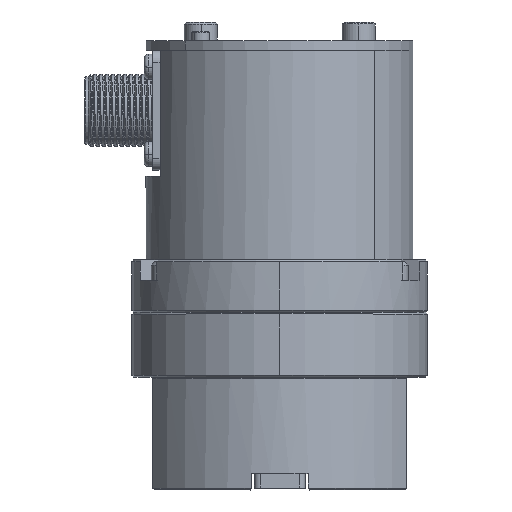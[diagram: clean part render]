
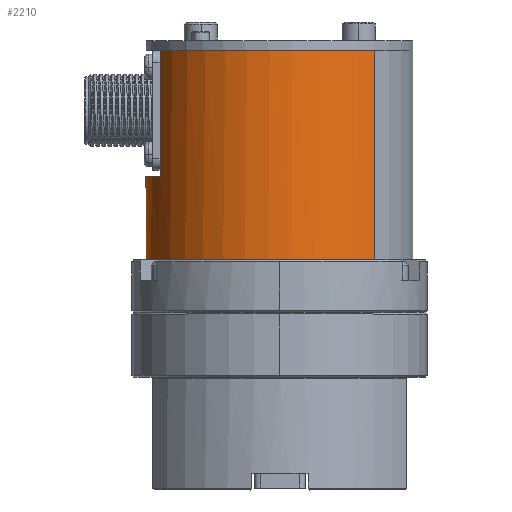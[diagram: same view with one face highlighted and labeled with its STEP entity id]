
A CAD part, top view. The second image highlights one B-rep face of the part: STEP entity #2210.
In plain terms, the highlighted cylindrical face has radius 28.384 mm (diameter 56.769 mm), a partial arc.
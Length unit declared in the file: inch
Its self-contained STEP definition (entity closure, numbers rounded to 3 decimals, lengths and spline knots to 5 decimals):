
#2106=CARTESIAN_POINT('',(-0.00003,1.92,0.00029));
#2107=DIRECTION('',(0.,1.,0.));
#2108=DIRECTION('',(-0.707,0.,-0.707));
#2109=AXIS2_PLACEMENT_3D('',#2106,#2107,#2108);
#2116=CARTESIAN_POINT('',(0.00002,2.62,
0.0003));
#2117=DIRECTION('',(0.,1.,0.));
#2118=DIRECTION('',(-0.894,0.,-0.447));
#2119=AXIS2_PLACEMENT_3D('',#2116,#2117,#2118);
#2121=DIRECTION('',(0.,1.,0.));
#2122=VECTOR('',#2121,1.05);
#2123=CARTESIAN_POINT('',(-0.99933,2.62006,
0.5004));
#2124=LINE('',#2123,#2122);
#2125=DIRECTION('',(0.,1.,0.));
#2126=VECTOR('',#2125,1.75);
#2127=CARTESIAN_POINT('',(-0.7903,1.92007,
-0.78982));
#2128=LINE('',#2127,#2126);
#2129=DIRECTION('',(0.,1.,0.));
#2130=VECTOR('',#2129,1.05);
#2131=CARTESIAN_POINT('',(-0.99943,2.62008,
-0.4996));
#2132=LINE('',#2131,#2130);
#2141=CARTESIAN_POINT('',(0.00009,3.67,
0.00031));
#2142=DIRECTION('',(0.,1.,0.));
#2143=DIRECTION('',(-0.707,0.,-0.707));
#2144=AXIS2_PLACEMENT_3D('',#2141,#2142,#2143);
#2151=CARTESIAN_POINT('',(0.00009,3.67,
0.00031));
#2152=DIRECTION('',(0.,1.,0.));
#2153=DIRECTION('',(-0.894,0.,0.448));
#2154=AXIS2_PLACEMENT_3D('',#2151,#2152,#2153);
#2156=DIRECTION('',(0.,1.,0.));
#2157=VECTOR('',#2156,1.75);
#2158=CARTESIAN_POINT('',(0.79024,1.91993,
0.7904));
#2159=LINE('',#2158,#2157);
#2160=CARTESIAN_POINT('',(-0.7903,1.92007,
-0.78982));
#2161=CARTESIAN_POINT('',(0.79024,1.91993,
0.7904));
#2162=VERTEX_POINT('',#2160);
#2163=VERTEX_POINT('',#2161);
#2164=CARTESIAN_POINT('',(0.79037,3.66993,
0.79043));
#2165=CARTESIAN_POINT('',(-0.79018,3.67007,
-0.7898));
#2166=VERTEX_POINT('',#2164);
#2167=VERTEX_POINT('',#2165);
#2168=CARTESIAN_POINT('',(-0.99926,3.67006,
0.50041));
#2169=CARTESIAN_POINT('',(-0.99936,3.67008,
-0.49959));
#2170=VERTEX_POINT('',#2168);
#2171=VERTEX_POINT('',#2169);
#2172=CARTESIAN_POINT('',(-0.99943,2.62008,
-0.4996));
#2173=CARTESIAN_POINT('',(-0.99933,2.62006,
0.5004));
#2174=VERTEX_POINT('',#2172);
#2175=VERTEX_POINT('',#2173);
#2188=CARTESIAN_POINT('',(-0.00003,1.92,0.00029));
#2189=DIRECTION('',(0.,1.,0.));
#2190=DIRECTION('',(-0.707,0.,-0.707));
#2191=AXIS2_PLACEMENT_3D('',#2188,#2189,#2190);
#2192=CYLINDRICAL_SURFACE('',#2191,1.1175);
#2194=ORIENTED_EDGE('',*,*,#2193,.T.);
#2196=ORIENTED_EDGE('',*,*,#2195,.T.);
#2198=ORIENTED_EDGE('',*,*,#2197,.T.);
#2200=ORIENTED_EDGE('',*,*,#2199,.F.);
#2201=ORIENTED_EDGE('',*,*,#2181,.F.);
#2203=ORIENTED_EDGE('',*,*,#2202,.T.);
#2205=ORIENTED_EDGE('',*,*,#2204,.T.);
#2207=ORIENTED_EDGE('',*,*,#2206,.F.);
#2208=EDGE_LOOP('',(#2194,#2196,#2198,#2200,#2201,#2203,#2205,#2207));
#2209=FACE_OUTER_BOUND('',#2208,.F.);
#2210=ADVANCED_FACE('',(#2209),#2192,.T.);
#2110=CIRCLE('',#2109,1.1175);
#2120=CIRCLE('',#2119,1.1175);
#2145=CIRCLE('',#2144,1.1175);
#2155=CIRCLE('',#2154,1.1175);
#2181=EDGE_CURVE('',#2162,#2163,#2110,.T.);
#2193=EDGE_CURVE('',#2174,#2175,#2120,.T.);
#2195=EDGE_CURVE('',#2175,#2170,#2124,.T.);
#2197=EDGE_CURVE('',#2170,#2166,#2155,.T.);
#2199=EDGE_CURVE('',#2163,#2166,#2159,.T.);
#2202=EDGE_CURVE('',#2162,#2167,#2128,.T.);
#2204=EDGE_CURVE('',#2167,#2171,#2145,.T.);
#2206=EDGE_CURVE('',#2174,#2171,#2132,.T.);
